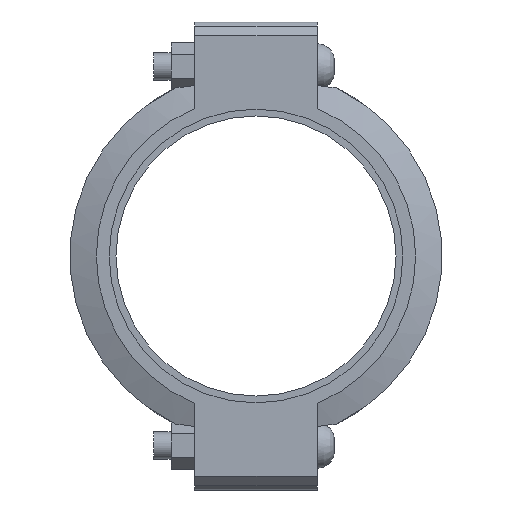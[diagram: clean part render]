
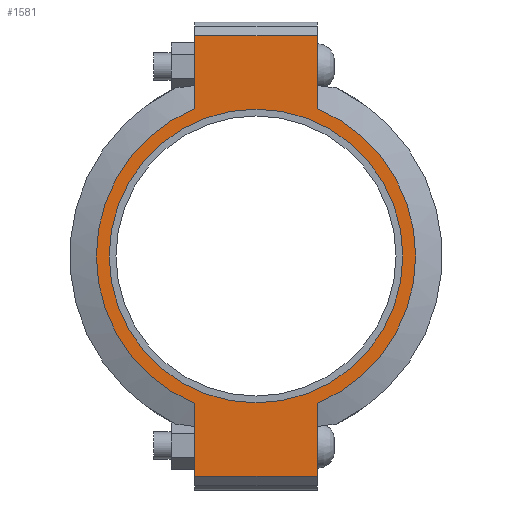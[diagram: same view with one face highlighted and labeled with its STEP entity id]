
A CAD part, left-side view. The second image highlights one B-rep face of the part: STEP entity #1581.
In plain terms, the highlighted planar face has unit normal (-1, 0, 0) as drawn and (0, 0, 1) by its records, which use the part's own axes.
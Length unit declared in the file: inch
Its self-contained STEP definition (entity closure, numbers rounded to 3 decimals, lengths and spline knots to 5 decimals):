
#152=LINE('',#2740,#241);
#163=LINE('',#2791,#252);
#169=LINE('',#2817,#258);
#171=LINE('',#2820,#260);
#172=LINE('',#2825,#261);
#173=LINE('',#2826,#262);
#241=VECTOR('',#2240,0.3937);
#252=VECTOR('',#2271,0.3937);
#258=VECTOR('',#2289,0.3937);
#260=VECTOR('',#2293,0.3937);
#261=VECTOR('',#2298,0.3937);
#262=VECTOR('',#2299,0.3937);
#324=FACE_BOUND('',#501,.T.);
#392=FACE_OUTER_BOUND('',#500,.T.);
#500=EDGE_LOOP('',(#1276,#1277,#1278,#1279,#1280,#1281,#1282,#1283));
#501=EDGE_LOOP('',(#1284));
#583=CIRCLE('',#1818,5.375);
#607=CIRCLE('',#1870,5.845);
#608=CIRCLE('',#1871,5.845);
#679=VERTEX_POINT('',#2566);
#720=VERTEX_POINT('',#2737);
#721=VERTEX_POINT('',#2739);
#738=VERTEX_POINT('',#2786);
#739=VERTEX_POINT('',#2790);
#746=VERTEX_POINT('',#2812);
#747=VERTEX_POINT('',#2816);
#748=VERTEX_POINT('',#2822);
#749=VERTEX_POINT('',#2824);
#843=EDGE_CURVE('',#679,#679,#583,.T.);
#900=EDGE_CURVE('',#721,#720,#152,.T.);
#921=EDGE_CURVE('',#739,#738,#163,.T.);
#932=EDGE_CURVE('',#747,#746,#169,.T.);
#934=EDGE_CURVE('',#747,#720,#171,.T.);
#935=EDGE_CURVE('',#746,#748,#607,.T.);
#936=EDGE_CURVE('',#748,#749,#172,.T.);
#937=EDGE_CURVE('',#739,#749,#173,.T.);
#938=EDGE_CURVE('',#738,#721,#608,.T.);
#1276=ORIENTED_EDGE('',*,*,#934,.F.);
#1277=ORIENTED_EDGE('',*,*,#932,.T.);
#1278=ORIENTED_EDGE('',*,*,#935,.T.);
#1279=ORIENTED_EDGE('',*,*,#936,.T.);
#1280=ORIENTED_EDGE('',*,*,#937,.F.);
#1281=ORIENTED_EDGE('',*,*,#921,.T.);
#1282=ORIENTED_EDGE('',*,*,#938,.T.);
#1283=ORIENTED_EDGE('',*,*,#900,.T.);
#1284=ORIENTED_EDGE('',*,*,#843,.T.);
#1421=PLANE('',#1869);
#1581=ADVANCED_FACE('',(#392,#324),#1421,.T.);
#1818=AXIS2_PLACEMENT_3D('',#2568,#2130,#2131);
#1869=AXIS2_PLACEMENT_3D('',#2821,#2294,#2295);
#1870=AXIS2_PLACEMENT_3D('',#2823,#2296,#2297);
#1871=AXIS2_PLACEMENT_3D('',#2827,#2300,#2301);
#2130=DIRECTION('center_axis',(0.,0.,-1.));
#2131=DIRECTION('ref_axis',(1.,0.,0.));
#2240=DIRECTION('',(1.,0.,0.));
#2271=DIRECTION('',(1.,0.,0.));
#2289=DIRECTION('',(-1.,0.,0.));
#2293=DIRECTION('',(0.,-1.,0.));
#2294=DIRECTION('center_axis',(0.,0.,1.));
#2295=DIRECTION('ref_axis',(-1.,0.,0.));
#2296=DIRECTION('center_axis',(0.,0.,1.));
#2297=DIRECTION('ref_axis',(1.,0.,0.));
#2298=DIRECTION('',(-1.,0.,0.));
#2299=DIRECTION('',(0.,1.,0.));
#2300=DIRECTION('center_axis',(0.,0.,1.));
#2301=DIRECTION('ref_axis',(1.,0.,0.));
#2566=CARTESIAN_POINT('',(-5.375,0.,1.315));
#2568=CARTESIAN_POINT('Origin',(0.,0.,1.315));
#2737=CARTESIAN_POINT('',(8.065,-2.25,1.315));
#2739=CARTESIAN_POINT('',(5.39458,-2.25,1.315));
#2740=CARTESIAN_POINT('',(-8.565,-2.25,1.315));
#2786=CARTESIAN_POINT('',(-5.39458,-2.25,1.315));
#2790=CARTESIAN_POINT('',(-8.065,-2.25,1.315));
#2791=CARTESIAN_POINT('',(-8.565,-2.25,1.315));
#2812=CARTESIAN_POINT('',(5.39458,2.25,1.315));
#2816=CARTESIAN_POINT('',(8.065,2.25,1.315));
#2817=CARTESIAN_POINT('',(8.565,2.25,1.315));
#2820=CARTESIAN_POINT('',(8.065,-1.125,1.315));
#2821=CARTESIAN_POINT('Origin',(0.,0.,
1.315));
#2822=CARTESIAN_POINT('',(-5.39458,2.25,1.315));
#2823=CARTESIAN_POINT('Origin',(0.,0.,1.315));
#2824=CARTESIAN_POINT('',(-8.065,2.25,1.315));
#2825=CARTESIAN_POINT('',(8.565,2.25,1.315));
#2826=CARTESIAN_POINT('',(-8.065,1.125,1.315));
#2827=CARTESIAN_POINT('Origin',(0.,0.,1.315));
